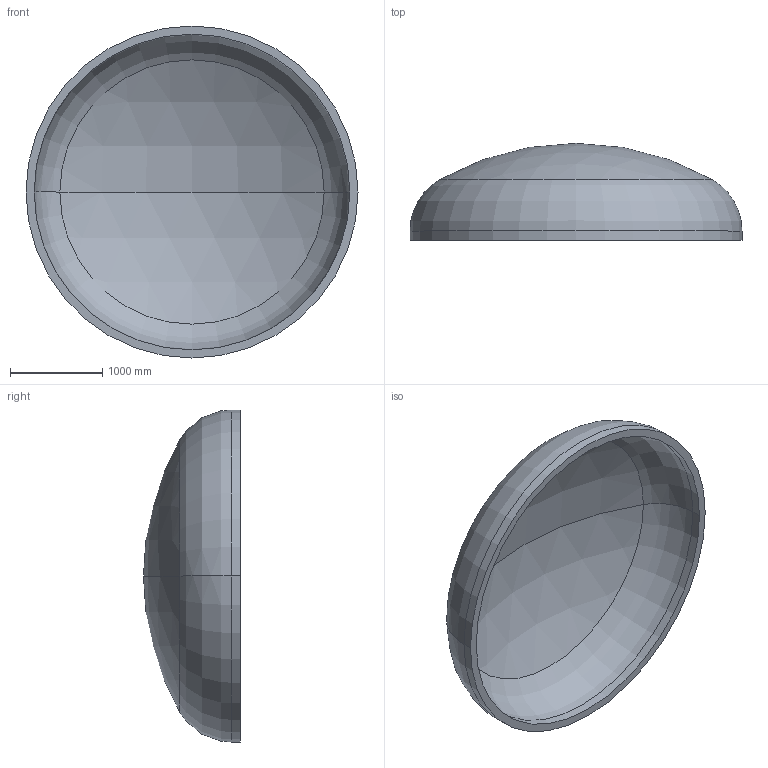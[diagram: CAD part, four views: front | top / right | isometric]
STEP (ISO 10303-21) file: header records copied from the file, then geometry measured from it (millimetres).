
FILE_DESCRIPTION (( 'STEP AP203' ), '1' );
FILE_NAME ('DIN 28013 Korbbogenform_-_Boden DIN 28013 - 3600 x 100 - I - s=88.step', '2016-07-01T20:44:52', ( '' ), ( '' ), 'SwSTEP 2.0', 'SolidWorks 2013', '' );
FILE_SCHEMA (( 'CONFIG_CONTROL_DESIGN' ));
Length unit declared in the file: millimetre
Products named in the file (1): DIN 28013 Korbbogenform_-_Boden DIN 28013 - 3600 x 100 - I - s=88
Bounding box: 3600 x 1051.33 x 3600 mm (x, y, z)
Volume: 1298765913 mm3; surface area: 30504544 mm2
Topology: 1 solids, 1 shells, 13 faces, 24 edges, 14 vertices
Faces by surface type: torus 4, cylinder 4, sphere 4, plane 1
Entity records: 407 total; most frequent: DIRECTION 72, CARTESIAN_POINT 52, ORIENTED_EDGE 48, AXIS2_PLACEMENT_3D 34, EDGE_CURVE 24, CIRCLE 20, EDGE_LOOP 14, VERTEX_POINT 14
